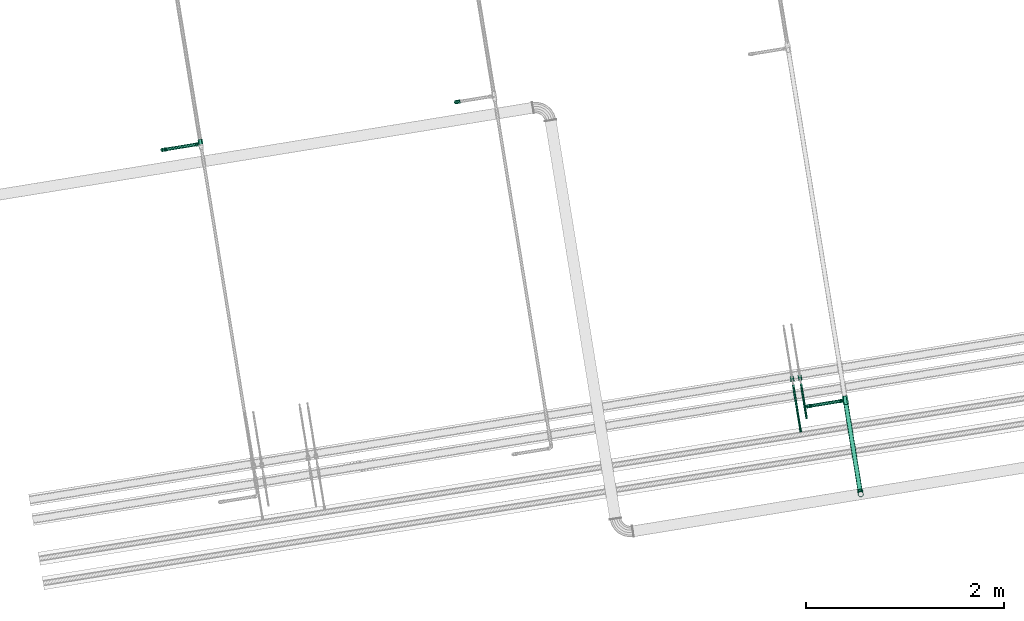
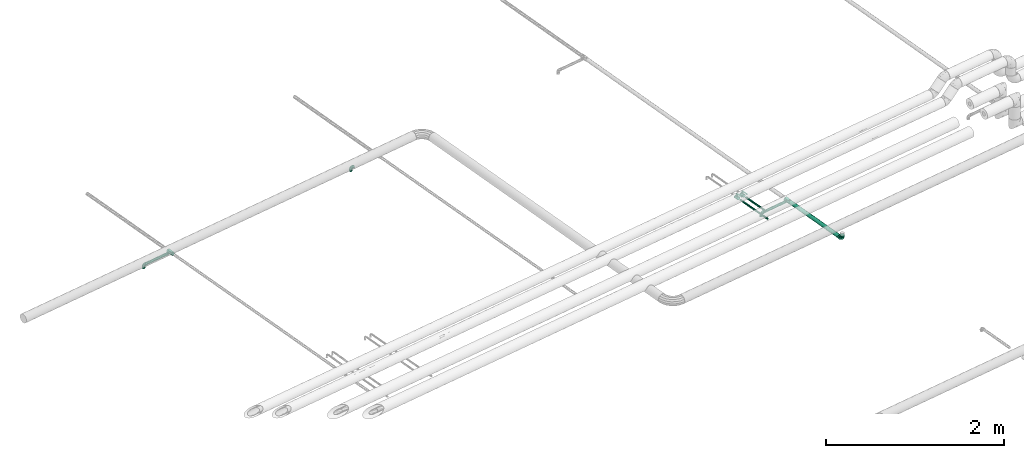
# One storey, part 24 of 56: 6 flow fittings, 5 flow segments, 2 flow controllers.
"""IFC2X3 building model written with IfcOpenShell, lengths in millimetres."""

from ifc_helpers import new_model, entity, si_unit, converted_unit, derived_unit, direction, frame, frame_2d, origin, origin_with_axes, origin_2d_with_axis, place, context, subcontext, project, spatial, polyline, rectangle, circle, outline, extrude, faceted_brep, source, transform, mapped, material, type_object, element, save


model = new_model("IFC2X3")

# Units and contexts
model_context = context("Model", 3, precision=0.01, world=origin(), true_north=direction((6.12323399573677e-17, 1.0)))
plan_context = context("Plan", 3, precision=1e-05, world=origin_with_axes())
body_context = subcontext(model_context, "Body", "Model", "MODEL_VIEW")
ifc_project = project(units=[converted_unit("PLANEANGLEUNIT", "DEGREE", entity("IfcPositiveLengthMeasure", 0.0174532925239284), si_unit("PLANEANGLEUNIT", "RADIAN"), dimensions=[0, 0, 0, 0, 0, 0, 0]), si_unit("AREAUNIT", "SQUARE_METRE"), si_unit("LENGTHUNIT", "METRE", prefix="MILLI"), si_unit("MASSUNIT", "GRAM", prefix="KILO"), si_unit("POWERUNIT", "WATT"), si_unit("PRESSUREUNIT", "PASCAL", prefix="KILO"), si_unit("FORCEUNIT", "NEWTON", prefix="KILO"), si_unit("ELECTRICVOLTAGEUNIT", "VOLT"), si_unit("ELECTRICCURRENTUNIT", "AMPERE"), si_unit("THERMODYNAMICTEMPERATUREUNIT", "DEGREE_CELSIUS"), si_unit("TIMEUNIT", "SECOND"), si_unit("VOLUMEUNIT", "CUBIC_METRE"), derived_unit("LINEARVELOCITYUNIT", [(si_unit("LENGTHUNIT", "METRE"), 1), (si_unit("TIMEUNIT", "SECOND"), -1)]), derived_unit("VOLUMETRICFLOWRATEUNIT", [(si_unit("VOLUMEUNIT", "CUBIC_METRE"), 1), (si_unit("TIMEUNIT", "SECOND"), -1)]), derived_unit("THERMALTRANSMITTANCEUNIT", [(si_unit("POWERUNIT", "WATT"), 1), (si_unit("THERMODYNAMICTEMPERATUREUNIT", "KELVIN"), -1), (si_unit("AREAUNIT", "SQUARE_METRE"), -1)]), derived_unit("SOUNDPRESSUREUNIT", [(si_unit("PRESSUREUNIT", "PASCAL"), 1)])], contexts=[model_context, plan_context])

# Site, building, storey
site_placement = place(None, frame((-3.09682673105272e-06, 1.93776733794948e-05, 0.0), z_axis=(0.0, 0.0, 1.0), x_axis=(-0.160806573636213, 0.986985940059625, 0.0)))
site = spatial("IfcSite", under=ifc_project, at=site_placement, Name="Default", CompositionType="ELEMENT")
building_placement = place(site_placement, frame((0.0, 0.0, 0.0), z_axis=(0.0, 0.0, 1.0), x_axis=(1.0, -2.77555756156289e-17, 0.0)))
building = spatial("IfcBuilding", under=site, at=building_placement, Name="Bygning (endres i Project Information)", CompositionType="ELEMENT")
storey_placement = place(building_placement, frame((0.0, 0.0, 51360.0000000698), z_axis=(0.0, 0.0, 1.0), x_axis=(1.0, -2.77555756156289e-17, 0.0)))
storey = spatial("IfcBuildingStorey", under=building, at=storey_placement, Name="H01-Nivå D+0,36", CompositionType="ELEMENT", Elevation=51360.0000000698)

# Flow controllers
ifc_material_1 = material(Name="3200.005 Tur")
valve_type = type_object("IfcValveType", Name="BALL-VALVE-THREAD:ball-valve-thead-DN15", PredefinedType="NOTDEFINED", material=ifc_material_1)
shared_shape_1 = source(origin(), body_context, "Body", "SweptSolid", [
    extrude(outline(polyline([(-11.1300001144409, -19.2777256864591), (11.1300001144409, -19.2777256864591), (22.2600002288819, 0.0), (11.1300001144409, 19.2777256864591), (-11.1300001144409, 19.277725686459), (-22.2600002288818, 0.0), (-11.1300001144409, -19.2777256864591)])), frame((-27.0, 0.0, 0.0), z_axis=(1.0, 0.0, 0.0), x_axis=(0.0, -0.866025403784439, 0.5)), (0.0, 0.0, 1.0), 12.0),
    extrude(outline(polyline([(-11.1300001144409, -19.2777256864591), (11.1300001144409, -19.2777256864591), (22.2600002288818, 0.0), (11.130000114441, 19.2777256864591), (-11.1300001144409, 19.2777256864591), (-22.2600002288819, 0.0), (-11.1300001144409, -19.2777256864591)])), frame((15.0, 0.0, 0.0), z_axis=(1.0, 0.0, 0.0), x_axis=(0.0, 0.0, -1.0)), (0.0, 0.0, 1.0), 12.0),
    extrude(circle(Radius=18.5499992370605, at=frame_2d((0.0, -3.40872778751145e-14), x_axis=(1.0, 0.0))), frame((-15.0, 0.0, 0.0), z_axis=(1.0, 0.0, 0.0), x_axis=(0.0, -1.0, 0.0)), (0.0, 0.0, 1.0), 30.0),
    extrude(circle(Radius=10.5, at=frame_2d((5.28743715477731e-16, -2.39576230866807e-14), x_axis=(1.0, 0.0))), frame((2.70000076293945, 0.0, 0.0)), (0.0, 0.0, 1.0), 50.0),
    extrude(rectangle(XDim=90.0, YDim=17.0, at=origin_2d_with_axis()), frame((-42.2999992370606, 0.0, 50.0)), (0.0, 0.0, 1.0), 3.0),
])
for number, where, z_axis, x_axis, name in (
    (1, (1011856.99429018, -391841.6268451, 3299.99999997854), (0.0, 0.0, 1.0), (1.0, -2.77555756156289e-17, 0.0), "BALL-VALVE-THREAD:ball-valve-thead-DN15"),
    (2, (1011856.99429018, -391921.651949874, 3299.99999997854), (0.0, 0.0, 1.0), (1.0, -2.77555756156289e-17, 0.0), "BALL-VALVE-THREAD:ball-valve-thead-DN15"),
):
    element("IfcFlowController", number, at=place(storey_placement, frame(where, z_axis=z_axis, x_axis=x_axis)), inside=storey, type_object=valve_type, material=ifc_material_1, Name=name, ObjectType="BALL-VALVE-THREAD:ball-valve-thead-DN15", context=body_context, shape_type="MappedRepresentation", body=[
        mapped(shared_shape_1, transform((0.0, 0.0, 0.0), scale=1.0)),
    ])

# Flow fittings
ifc_material_2 = material(Name="3320.001")
pipe_fitting_type_1 = type_object("IfcPipeFittingType", Name="RS_53_PIF_UN_Tee-Reduced-EN10241_MC_gen:RS_53_PIF_UN_Tee-Reduced-EN10241_MC_gen", PredefinedType="NOTDEFINED", material=ifc_material_2)
shared_shape_2 = source(origin(), body_context, "Body", "Brep", [
    faceted_brep([(44.0, -28.0, 0.0), (44.0, -21.0, -12.124355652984), (44.0, -14.0, -24.2487113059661), (44.0, 0.0, -24.2487113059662), (44.0, 14.0, -24.2487113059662), (44.0, 21.0, -12.1243556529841), (44.0, 28.0, 0.0), (44.0, 21.0, 12.1243556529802), (44.0, 14.0, 24.2487113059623), (44.0, 0.0, 24.2487113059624), (44.0, -14.0, 24.2487113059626), (44.0, -21.0, 12.1243556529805), (-44.0, -28.0, 0.0), (-44.0, -21.0, 12.1243556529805), (-44.0, -14.0, 24.2487113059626), (-44.0, 0.0, 24.2487113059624), (-44.0, 14.0, 24.2487113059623), (-44.0, 21.0, 12.1243556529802), (-44.0, 28.0, 0.0), (-44.0, 20.982647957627, -12.1544102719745), (-44.0, 14.0, -24.2487113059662), (-44.0, 0.0, -24.2487113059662), (-44.0, -14.0, -24.2487113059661), (-44.0, -21.0, -12.124355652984), (3.55028427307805, -20.1628871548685, 19.4282778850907), (11.6501421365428, -24.0814435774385, 9.71413894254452), (-19.7499999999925, -28.0, 0.0), (-8.09985786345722, -24.0814435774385, 9.71413894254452), (19.7500000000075, -28.0, 0.0), (-11.6531711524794, -24.0819773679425, -9.71358493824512), (-3.55634230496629, -20.1639547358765, -19.4271698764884), (8.0968288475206, -24.0819773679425, -9.71358493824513), (9.87500000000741, -52.0, -17.1040017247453), (14.8125000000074, -52.0, -8.55200086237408), (19.7500000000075, -52.0, 0.0), (14.8125000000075, -52.0, 8.55200086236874), (9.87500000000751, -52.0, 17.1040017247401), (0.0, -52.0, 17.1040017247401), (-9.87499999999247, -52.0, 17.1040017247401), (-14.8124999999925, -52.0, 8.55200086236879), (-19.7499999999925, -52.0, 0.0), (-14.8124999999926, -52.0, -8.55200086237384), (-9.87499999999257, -52.0, -17.1040017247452), (0.0, -52.0, -17.1040017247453)], [[[0, 1, 2, 3, 4, 5, 6, 7, 8, 9, 10, 11]], [[12, 13, 14, 15, 16, 17, 18, 19, 20, 21, 22, 23]], [[7, 6, 18, 17, 16, 8]], [[8, 16, 15, 9]], [[15, 14, 24]], [[11, 24, 25]], [[24, 9, 15]], [[12, 26, 13]], [[13, 26, 27, 24]], [[0, 11, 25]], [[0, 25, 28]], [[24, 14, 13]], [[24, 11, 10]], [[9, 24, 10]], [[19, 18, 6, 5, 4, 20]], [[23, 29, 12]], [[30, 1, 28, 31]], [[23, 30, 29]], [[12, 29, 26]], [[1, 0, 28]], [[23, 22, 30]], [[21, 20, 4, 3]], [[30, 21, 3]], [[30, 3, 2]], [[30, 2, 1]], [[21, 30, 22]], [[32, 33, 34, 35, 36, 37, 38, 39, 40, 41, 42, 43]], [[26, 41, 40]], [[29, 42, 41]], [[31, 43, 30]], [[32, 31, 33]], [[30, 42, 29]], [[28, 33, 31]], [[31, 32, 43]], [[34, 33, 28]], [[43, 42, 30]], [[26, 29, 41]], [[28, 35, 34]], [[25, 36, 35]], [[27, 37, 24]], [[38, 27, 39]], [[24, 36, 25]], [[26, 39, 27]], [[27, 38, 37]], [[40, 39, 26]], [[37, 36, 24]], [[28, 25, 35]]]),
])
flow_fitting_1_placement = place(storey_placement, frame((1011558.93557438, -392336.905112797, 3200.0), z_axis=(0.0, 0.0, 1.0), x_axis=(-1.0, 2.77555756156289e-17, 0.0)))
element("IfcFlowFitting", 3, at=flow_fitting_1_placement, inside=storey, type_object=pipe_fitting_type_1, material=ifc_material_2, Name="RS_53_PIF_UN_Tee-Reduced-EN10241_MC_gen:RS_53_PIF_UN_Tee-Reduced-EN10241_MC_gen", ObjectType="RS_53_PIF_UN_Tee-Reduced-EN10241_MC_gen:RS_53_PIF_UN_Tee-Reduced-EN10241_MC_gen", context=body_context, shape_type="MappedRepresentation", body=[
    mapped(shared_shape_2, transform((0.0, 0.0, 0.0), scale=1.0)),
])
pipe_fitting_type_2 = type_object("IfcPipeFittingType", Name="RS_53_PIF_UN_Elbow-EN10241_NOR:RS_53_PIF_UN_Elbow-EN10241_NOR", PredefinedType="NOTDEFINED", material=ifc_material_2)
shared_shape_3 = source(origin(), body_context, "Body", "Brep", [
    faceted_brep([(-43.0, 5.11167614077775, 19.0770350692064), (-43.0, 17.1040017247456, 9.87499999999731), (-43.0, 19.7500000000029, 0.0), (-43.0, 17.1040017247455, -9.87500000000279), (-43.0, 5.11167614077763, -19.0770350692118), (-43.0, -5.11167614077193, -19.0770350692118), (-43.0, -17.1040017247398, -9.87500000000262), (-43.0, -19.7499999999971, 0.0), (-43.0, -17.1040017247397, 9.87499999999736), (-43.0, -5.11167614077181, 19.0770350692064), (-21.7499999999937, -19.7499999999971, 0.0), (-21.7499999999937, -15.1293510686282, -12.6950870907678), (-21.7499999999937, -3.42946974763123, -19.4499675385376), (-21.7499999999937, 15.1294711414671, -12.694943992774), (-21.7499999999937, 19.7500000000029, 0.0), (-21.7499999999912, 5.85000069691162, -16.072455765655), (-21.7499999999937, 15.1294711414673, 12.6949439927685), (-21.7499999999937, 3.42965371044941, 19.4499351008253), (-21.7499999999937, -15.1293510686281, 12.6950870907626), (-5.41688095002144, -10.3200693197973, 0.0), (0.655979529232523, -2.00253561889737, 16.4678355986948), (-11.0449015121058, 9.84579831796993, 18.897380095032), (-18.5589216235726, 21.7499999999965, 6.75491881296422), (-15.1293490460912, 21.7499999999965, 12.6950895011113), (-20.3357864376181, 20.3357864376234, 0.0), (-19.7499999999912, 21.7499999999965, 0.0), (14.190054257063, 1.0, 0.0), (12.6950125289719, 21.7499999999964, 15.1294136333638), (6.75482439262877, 21.7499999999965, 18.5589559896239), (17.2232575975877, 12.3200689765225, 0.0), (-6.754824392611, 21.7499999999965, 18.558955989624), (19.7500000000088, 21.7499999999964, 0.0), (18.5589216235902, 21.7499999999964, 6.75491881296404), (0.0, 21.7499999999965, 19.7499999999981), (-18.5589216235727, 21.7499999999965, -6.75491881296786), (-10.1618436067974, 10.1618877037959, -19.0082217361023), (1.2569166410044, -0.890945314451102, -16.7093898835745), (0.0, 21.7499999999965, -19.7500000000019), (-6.75482439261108, 21.7499999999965, -18.5589559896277), (-12.6950125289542, 21.7499999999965, -15.1294136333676), (18.5589216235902, 21.7499999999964, -6.75491881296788), (15.1293490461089, 21.7499999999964, -12.6950895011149), (6.75482439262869, 21.7499999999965, -18.5589559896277), (-9.8749999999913, 43.0, 17.1040017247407), (0.0, 43.0, 19.7499999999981), (9.8750000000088, 43.0, 17.1040017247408), (19.0770350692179, 43.0, 5.11167614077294), (19.0770350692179, 43.0, -5.11167614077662), (9.87500000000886, 43.0, -17.1040017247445), (0.0, 43.0, -19.7500000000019), (-9.87499999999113, 43.0, -17.1040017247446), (-19.0770350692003, 43.0, -5.11167614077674), (-19.0770350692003, 43.0, 5.11167614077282)], [[[0, 1, 2, 3, 4, 5, 6, 7, 8, 9]], [[7, 6, 10]], [[6, 11, 10]], [[11, 6, 5]], [[11, 5, 12]], [[13, 4, 3]], [[14, 3, 2]], [[4, 13, 15, 12]], [[13, 3, 14]], [[4, 12, 5]], [[2, 1, 14]], [[1, 16, 14]], [[16, 1, 0]], [[16, 0, 17]], [[18, 9, 8]], [[10, 8, 7]], [[9, 18, 17]], [[18, 8, 10]], [[9, 17, 0]], [[18, 19, 20]], [[20, 21, 17]], [[22, 16, 23]], [[16, 17, 21]], [[24, 14, 22]], [[22, 25, 24]], [[14, 16, 22]], [[20, 26, 27]], [[27, 28, 20]], [[26, 29, 27]], [[23, 21, 30]], [[31, 32, 29]], [[18, 20, 17]], [[26, 20, 19]], [[21, 23, 16]], [[18, 10, 19]], [[33, 21, 20]], [[33, 30, 21]], [[27, 29, 32]], [[33, 20, 28]], [[14, 24, 34]], [[25, 34, 24]], [[12, 35, 36]], [[14, 34, 13]], [[36, 19, 11]], [[37, 35, 38]], [[38, 35, 39]], [[10, 11, 19]], [[34, 39, 13]], [[37, 36, 35]], [[36, 11, 12]], [[39, 35, 13]], [[40, 31, 29]], [[41, 36, 42]], [[36, 37, 42]], [[41, 40, 29]], [[26, 36, 41]], [[29, 26, 41]], [[19, 36, 26]], [[13, 35, 12, 15]], [[43, 44, 45, 46, 47, 48, 49, 50, 51, 52]], [[49, 37, 38]], [[50, 38, 39]], [[49, 38, 50]], [[51, 50, 39]], [[51, 34, 25]], [[34, 51, 39]], [[52, 25, 22]], [[22, 23, 52]], [[30, 43, 23]], [[52, 23, 43]], [[44, 43, 30]], [[33, 44, 30]], [[25, 52, 51]], [[44, 33, 28]], [[45, 28, 27]], [[44, 28, 45]], [[46, 45, 27]], [[46, 32, 31]], [[32, 46, 27]], [[47, 31, 40]], [[40, 41, 47]], [[42, 48, 41]], [[47, 41, 48]], [[49, 48, 42]], [[37, 49, 42]], [[31, 47, 46]]]),
])
for number, where, z_axis, x_axis in (
    (4, (1011558.93557438, -391946.491159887, 3200.0), (1.0, -2.77555756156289e-17, 0.0), (0.0, 0.0, 1.0)),
    (5, (1015158.93557438, -388943.49115785, 3200.0), (1.0, -2.77555756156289e-17, 0.0), (0.0, 0.0, 1.0)),
    (6, (1015158.93557438, -385943.49115785, 3200.0), (1.0, -2.77555756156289e-17, 0.0), (0.0, 0.0, 1.0)),
):
    element("IfcFlowFitting", number, at=place(storey_placement, frame(where, z_axis=z_axis, x_axis=x_axis)), inside=storey, type_object=pipe_fitting_type_2, material=ifc_material_2, Name="RS_53_PIF_UN_Elbow-EN10241_NOR:RS_53_PIF_UN_Elbow-EN10241_NOR", ObjectType="RS_53_PIF_UN_Elbow-EN10241_NOR:RS_53_PIF_UN_Elbow-EN10241_NOR", context=body_context, shape_type="MappedRepresentation", body=[
        mapped(shared_shape_3, transform((0.0, 0.0, 0.0), scale=1.0)),
    ])
pipe_fitting_type_3 = type_object("IfcPipeFittingType", Name="RS_53_PIF_UN_Elbow-EN10241_NOR:RS_53_PIF_UN_Elbow-EN10241_NOR", PredefinedType="NOTDEFINED", material=ifc_material_2)
shared_shape_4 = source(origin(), body_context, "Body", "Brep", [
    faceted_brep([(-52.0, 7.24693326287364, 27.0459231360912), (-52.0, 24.2487113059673, 14.0), (-52.0, 28.0, 0.0), (-52.0, 24.2487113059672, -14.0), (-52.0, 7.24693326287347, -27.0459231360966), (-52.0, -7.24693326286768, -27.0459231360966), (-52.0, -24.2487113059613, -14.0), (-52.0, -28.0, 0.0), (-52.0, -24.2487113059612, 14.0), (-52.0, -7.24693326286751, 27.0459231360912), (-30.0, -28.0, 0.0), (-30.0, -21.4492137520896, -17.9980896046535), (-30.0, -4.86205504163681, -27.5746336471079), (-30.0, 21.4493517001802, -17.9979252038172), (-30.0, 28.0, 0.0), (-30.0, 8.29364832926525, -22.7862794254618), (-30.0, 21.4493517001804, 17.9979252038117), (-30.0, 4.86226639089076, 27.5745963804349), (-30.0, -21.4492137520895, 17.9980896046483), (11.0121933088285, -11.0121933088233, 0.0), (1.88015334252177, -2.37333729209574, 23.3612476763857), (-4.79114257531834, -17.5581493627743, 0.0), (-15.3468616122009, 13.6699288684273, 26.8150053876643), (-21.4491366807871, 30.0, 17.9981814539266), (-9.57628841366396, 30.0, 26.3114936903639), (-28.5857864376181, 28.5857864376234, 0.0), (-26.3113647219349, 30.0, 9.57664275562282), (-28.0, 30.0, 0.0), (17.5581489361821, 4.79114154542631, 0.0), (22.7790744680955, 17.3955707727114, 0.0), (17.9978925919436, 30.0, 21.4493790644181), (9.57628841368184, 30.0, 26.3114936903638), (28.0, 30.0, 0.0), (26.3113647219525, 30.0, 9.57664275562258), (0.0, 30.0, 28.0), (-26.3113647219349, 30.0, -9.57664275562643), (2.21896714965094, -1.70900906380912, -23.5116465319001), (-17.9978925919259, 30.0, -21.4493790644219), (-9.57628841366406, 30.0, -26.3114936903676), (0.0, 30.0, -28.0), (21.4491366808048, 30.0, -17.9981814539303), (26.3113647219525, 30.0, -9.57664275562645), (9.57628841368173, 30.0, -26.3114936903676), (-14.0, 52.0, -24.2487113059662), (-27.0459231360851, 52.0, -7.24693326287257), (-27.0459231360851, 52.0, 7.24693326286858), (-14.0, 52.0, 24.2487113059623), (0.0, 52.0, 28.0), (14.0, 52.0, 24.2487113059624), (27.0459231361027, 52.0, 7.24693326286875), (27.0459231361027, 52.0, -7.2469332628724), (14.0, 52.0, -24.2487113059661), (0.0, 52.0, -28.0)], [[[0, 1, 2, 3, 4, 5, 6, 7, 8, 9]], [[7, 6, 10]], [[6, 11, 10]], [[11, 6, 5]], [[11, 5, 12]], [[13, 4, 3]], [[14, 3, 2]], [[4, 13, 15, 12]], [[13, 3, 14]], [[4, 12, 5]], [[2, 1, 14]], [[1, 16, 14]], [[16, 1, 0]], [[16, 0, 17]], [[18, 9, 8]], [[10, 8, 7]], [[9, 18, 17]], [[18, 8, 10]], [[9, 17, 0]], [[19, 20, 21]], [[16, 17, 22]], [[21, 20, 18]], [[18, 10, 21]], [[23, 22, 24]], [[25, 14, 26]], [[26, 27, 25]], [[16, 26, 14]], [[19, 28, 20]], [[28, 29, 30]], [[30, 20, 28]], [[20, 22, 17]], [[30, 31, 20]], [[29, 32, 33]], [[22, 34, 24]], [[26, 16, 23]], [[30, 29, 33]], [[23, 16, 22]], [[34, 22, 20]], [[18, 20, 17]], [[20, 31, 34]], [[35, 13, 14]], [[21, 10, 11]], [[35, 14, 25]], [[36, 21, 11]], [[36, 11, 12]], [[13, 37, 15]], [[35, 25, 27]], [[36, 12, 15]], [[36, 15, 38]], [[38, 39, 36]], [[29, 28, 40]], [[41, 32, 29]], [[37, 13, 35]], [[40, 41, 29]], [[36, 42, 40]], [[19, 36, 28]], [[37, 38, 15]], [[21, 36, 19]], [[28, 36, 40]], [[42, 36, 39]], [[43, 44, 45, 46, 47, 48, 49, 50, 51, 52]], [[52, 39, 38]], [[43, 38, 37]], [[52, 38, 43]], [[44, 43, 37]], [[44, 35, 27]], [[35, 44, 37]], [[45, 27, 26]], [[26, 23, 45]], [[24, 46, 23]], [[45, 23, 46]], [[47, 46, 24]], [[34, 47, 24]], [[27, 45, 44]], [[47, 34, 31]], [[48, 31, 30]], [[47, 31, 48]], [[49, 48, 30]], [[49, 33, 32]], [[33, 49, 30]], [[50, 32, 41]], [[41, 40, 50]], [[42, 51, 40]], [[50, 40, 51]], [[52, 51, 42]], [[39, 52, 42]], [[32, 50, 49]]]),
])
flow_fitting_2_placement = place(storey_placement, frame((1010597.87927671, -392336.905112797, 3200.0), z_axis=(2.77555756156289e-17, 1.0, 0.0), x_axis=(-1.0, 2.77555756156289e-17, 0.0)))
element("IfcFlowFitting", 7, at=flow_fitting_2_placement, inside=storey, type_object=pipe_fitting_type_3, material=ifc_material_2, Name="RS_53_PIF_UN_Elbow-EN10241_NOR:RS_53_PIF_UN_Elbow-EN10241_NOR", ObjectType="RS_53_PIF_UN_Elbow-EN10241_NOR:RS_53_PIF_UN_Elbow-EN10241_NOR", context=body_context, shape_type="MappedRepresentation", body=[
    mapped(shared_shape_4, transform((0.0, 0.0, 0.0), scale=1.0)),
])
pipe_fitting_type_4 = type_object("IfcPipeFittingType", Name="RS_53_PIF_UN_Tee-Reduced-EN10241_MC_gen:RS_53_PIF_UN_Tee-Reduced-EN10241_MC_gen", PredefinedType="NOTDEFINED", material=ifc_material_2)
shared_shape_5 = source(origin(), body_context, "Body", "Brep", [
    faceted_brep([(44.0, 24.4999999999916, 0.0), (44.0, 18.3749999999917, 10.6088111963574), (44.0, 12.2499999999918, 21.2176223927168), (44.0, 0.0, 21.2176223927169), (44.0, -12.2500000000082, 21.217622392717), (44.0, -18.3750000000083, 10.6088111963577), (44.0, -24.5000000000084, 0.0), (44.0, -21.6281924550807, -4.97411657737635), (44.0, -18.3750000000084, -10.6088111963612), (44.0, -12.2500000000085, -21.2176223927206), (44.0, 0.0, -21.2176223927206), (44.0, 12.2499999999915, -21.2176223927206), (44.0, 18.3749999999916, -10.6088111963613), (-44.0, -12.2500000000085, -21.2176223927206), (-44.0, -18.3750000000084, -10.6088111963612), (-44.0, -24.5000000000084, 0.0), (-44.0, -21.6281923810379, 4.97411670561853), (-44.0, -18.3750000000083, 10.6088111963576), (-44.0, -12.2500000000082, 21.217622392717), (-44.0, 0.0, 21.2176223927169), (-44.0, 12.2499999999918, 21.2176223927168), (-44.0, 18.7563847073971, 9.94823350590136), (-44.0, 24.4999999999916, 0.0), (-44.0, 18.3749999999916, -10.6088111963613), (-44.0, 12.2499999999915, -21.2176223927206), (-44.0, 0.0, -21.2176223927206), (-8.07289668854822, -19.7195683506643, 9.70917342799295), (3.60420662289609, -14.9391367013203, 19.4183468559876), (15.7135516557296, -22.1097841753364, 4.85458671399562), (-19.7499999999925, -24.5000000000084, 0.0), (11.6771033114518, -19.7195683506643, 9.70917342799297), (19.7500000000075, -24.5000000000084, 0.0), (-15.715142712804, -22.1101683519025, -4.85429113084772), (-3.61057085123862, -14.9406734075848, -19.4171645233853), (-11.6802854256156, -19.7203367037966, -9.70858226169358), (8.06971457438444, -19.7203367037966, -9.70858226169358), (9.87500000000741, -51.0, -17.1040017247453), (14.8125000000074, -51.0, -8.55200086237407), (19.7500000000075, -51.0, 0.0), (14.8125000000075, -51.0, 8.55200086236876), (9.87500000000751, -51.0, 17.1040017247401), (0.0, -51.0, 17.1040017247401), (-9.87499999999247, -51.0, 17.1040017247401), (-14.8124999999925, -51.0, 8.55200086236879), (-19.7499999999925, -51.0, 0.0), (-14.8124999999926, -51.0, -8.55200086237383), (-9.87499999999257, -51.0, -17.1040017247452), (0.0, -51.0, -17.1040017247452)], [[[0, 1, 2, 3, 4, 5, 6, 7, 8, 9, 10, 11, 12]], [[13, 14, 15, 16, 17, 18, 19, 20, 21, 22, 23, 24, 25]], [[1, 0, 22, 21, 20, 2]], [[2, 20, 19, 3]], [[26, 17, 16]], [[18, 27, 19]], [[28, 6, 5]], [[29, 16, 15]], [[5, 27, 30, 28]], [[5, 4, 27]], [[27, 17, 26]], [[17, 27, 18]], [[26, 16, 29]], [[6, 28, 31]], [[19, 27, 3]], [[4, 3, 27]], [[32, 15, 14]], [[14, 33, 34, 32]], [[31, 7, 6]], [[35, 8, 7]], [[8, 33, 9]], [[33, 8, 35]], [[15, 32, 29]], [[24, 23, 22, 0, 12, 11]], [[25, 24, 11, 10]], [[14, 13, 33]], [[13, 25, 33]], [[35, 7, 31]], [[10, 33, 25]], [[10, 9, 33]], [[36, 37, 38, 39, 40, 41, 42, 43, 44, 45, 46, 47]], [[29, 45, 44]], [[34, 46, 45]], [[35, 36, 47]], [[33, 46, 34]], [[37, 36, 35]], [[45, 29, 32, 34]], [[31, 37, 35]], [[37, 31, 38]], [[47, 46, 33]], [[35, 47, 33]], [[31, 39, 38]], [[30, 40, 39]], [[26, 42, 41]], [[27, 40, 30]], [[43, 42, 26]], [[39, 31, 28, 30]], [[29, 43, 26]], [[43, 29, 44]], [[41, 40, 27]], [[26, 41, 27]]]),
])
flow_fitting_3_placement = place(storey_placement, frame((1015158.93557438, -386333.90511076, 3200.0), z_axis=(0.0, 0.0, 1.0), x_axis=(-1.0, 2.77555756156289e-17, 0.0)))
element("IfcFlowFitting", 8, at=flow_fitting_3_placement, inside=storey, type_object=pipe_fitting_type_4, material=ifc_material_2, Name="RS_53_PIF_UN_Tee-Reduced-EN10241_MC_gen:RS_53_PIF_UN_Tee-Reduced-EN10241_MC_gen", ObjectType="RS_53_PIF_UN_Tee-Reduced-EN10241_MC_gen:RS_53_PIF_UN_Tee-Reduced-EN10241_MC_gen", context=body_context, shape_type="MappedRepresentation", body=[
    mapped(shared_shape_5, transform((0.0, 0.0, 0.0), scale=1.0)),
])

# Flow segments
pipe_segment_type_1 = type_object("IfcPipeSegmentType", Name="Pipe Types:Stålrør sveist og gjenget", PredefinedType="NOTDEFINED", material=ifc_material_2)
flow_segment_1_placement = place(storey_placement, frame((0.0, 0.0, 0.0), z_axis=(0.0, 0.0, 1.0), x_axis=(1.0, -2.77555756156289e-17, 0.0)))
element("IfcFlowSegment", 9, at=flow_segment_1_placement, inside=storey, type_object=pipe_segment_type_1, Name="Pipe Types:Stålrør sveist og gjenget", ObjectType="Pipe Types:Stålrør sveist og gjenget", context=body_context, shape_type="SweptSolid", body=[
    extrude(circle(Radius=16.8500004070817, at=origin_2d_with_axis()), frame((1011558.93557438, -392304.005112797, 3200.0), z_axis=(0.0, 1.0, 0.0), x_axis=(1.0, 0.0, 0.0)), (0.0, 0.0, 1.0), 333.613952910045),
])
flow_segment_2_placement = place(storey_placement, frame((0.0, 0.0, 0.0), z_axis=(0.0, 0.0, 1.0), x_axis=(1.0, -2.77555756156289e-17, 0.0)))
element("IfcFlowSegment", 10, at=flow_segment_2_placement, inside=storey, type_object=pipe_segment_type_1, Name="Pipe Types:Stålrør sveist og gjenget", ObjectType="Pipe Types:Stålrør sveist og gjenget", context=body_context, shape_type="SweptSolid", body=[
    extrude(circle(Radius=24.1499996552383, at=origin_2d_with_axis()), frame((1010627.87927671, -392336.905112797, 3200.0), z_axis=(1.0, 0.0, 0.0), x_axis=(0.0, 1.0, 0.0)), (0.0, 0.0, 1.0), 908.456297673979),
])
flow_segment_3_placement = place(storey_placement, frame((0.0, 0.0, 0.0), z_axis=(0.0, 0.0, 1.0), x_axis=(1.0, -2.77555756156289e-17, 0.0)))
element("IfcFlowSegment", 11, at=flow_segment_3_placement, inside=storey, type_object=pipe_segment_type_1, Name="Pipe Types:Stålrør sveist og gjenget", ObjectType="Pipe Types:Stålrør sveist og gjenget", context=body_context, shape_type="SweptSolid", body=[
    extrude(circle(Radius=16.8500004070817, at=origin_2d_with_axis()), frame((1015158.93557438, -386302.00511076, 3200.0), z_axis=(0.0, 1.0, 0.0), x_axis=(1.0, 0.0, 0.0)), (0.0, 0.0, 1.0), 334.613952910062),
])
pipe_segment_type_2 = type_object("IfcPipeSegmentType", Name="Pipe Types:Pressfittingssystem MM", PredefinedType="NOTDEFINED", material=ifc_material_1)
flow_segment_4_placement = place(storey_placement, frame((0.0, 0.0, 0.0), z_axis=(0.0, 0.0, 1.0), x_axis=(1.0, -2.77555756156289e-17, 0.0)))
element("IfcFlowSegment", 12, at=flow_segment_4_placement, inside=storey, type_object=pipe_segment_type_2, Name="Pipe Types:Pressfittingssystem MM", ObjectType="Pipe Types:Pressfittingssystem MM", context=body_context, shape_type="SweptSolid", body=[
    extrude(circle(Radius=9.00000001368, at=origin_2d_with_axis()), frame((1011316.13376095, -391841.626845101, 3299.99999997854), z_axis=(1.0, 0.0, 0.0), x_axis=(0.0, 1.0, 0.0)), (0.0, 0.0, 1.0), 478.860529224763),
])
flow_segment_5_placement = place(storey_placement, frame((0.0, 0.0, 0.0), z_axis=(0.0, 0.0, 1.0), x_axis=(1.0, -2.77555756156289e-17, 0.0)))
element("IfcFlowSegment", 13, at=flow_segment_5_placement, inside=storey, type_object=pipe_segment_type_2, Name="Pipe Types:Pressfittingssystem MM", ObjectType="Pipe Types:Pressfittingssystem MM", context=body_context, shape_type="SweptSolid", body=[
    extrude(circle(Radius=9.00000001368, at=origin_2d_with_axis()), frame((1011439.99429018, -391921.651949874, 3299.95000038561), z_axis=(0.999999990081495, 0.0, 0.00014084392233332), x_axis=(0.0, 1.0, 0.0)), (0.0, 0.0, 1.0), 355.000003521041),
])

save(model, "model.ifc")
